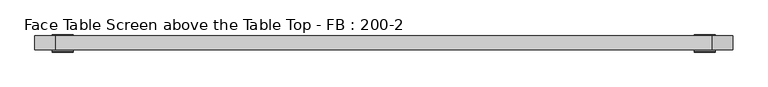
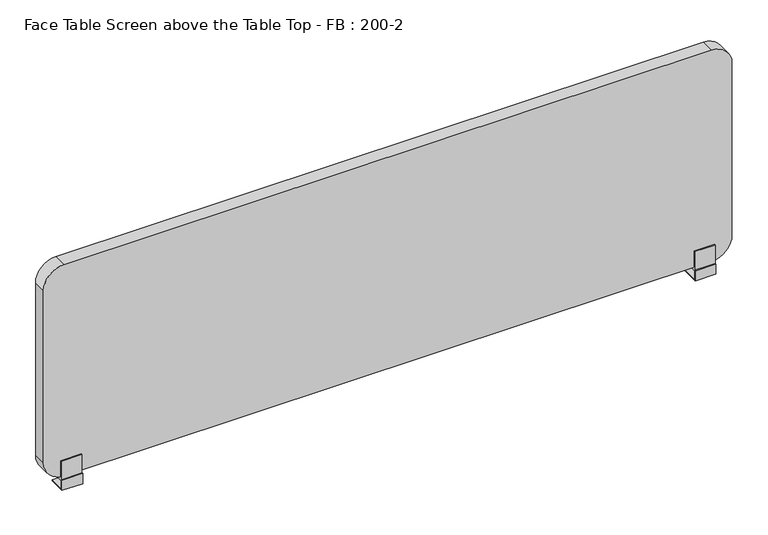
"""IFC4 building model written with IfcOpenShell, lengths in millimetres: furniture geometry, Face Table Screen above the Table Top - FB : 200-2."""

from ifc_helpers import new_model, si_unit, point, frame, frame_2d, origin, place, context, project, spatial, polyline, circle_curve, trimmed, segment, composite_curve, outline, extrude, source, transform, mapped, element, save
from ifc_brep_helpers import plane_surface, cylinder_surface, advanced_brep


def face_table_screen_above_the_table_top_fb_200_2_9797aef2(model_context):
    return source(origin(), model_context, "Body", "SolidModel", [
        advanced_brep(
        [(-925.0, 20.0, -39.4406633), (-915.0, 20.0, -39.4406633), (-915.0, 20.0, -28.0), (-925.0, 20.0, -28.0), (-950.0, 43.0, -25.0), (-950.0, -3.0, -25.0), (-890.0, -3.0, -25.0), (-890.0, 43.0, -25.0), (-950.0, -3.0, 0.0), (-950.0, 43.0, -28.0), (-950.0, -6.0, -28.0), (-950.0, -6.0, 3.0), (-950.0, -3.0, 3.0), (-950.0, -3.0, 60.0), (-950.0, 0.0, 60.0), (-950.0, 0.0, 10.0), (-950.0, 40.0, 10.0), (-950.0, 40.0, 60.0), (-950.0, 43.0, 60.0), (-950.0, 43.0, 0.0), (-890.0, -3.0, 0.0), (-890.0, 43.0, 0.0), (-890.0, 43.0, 60.0), (-890.0, 40.0, 60.0), (-890.0, 40.0, 10.0), (-890.0, 0.0, 10.0), (-890.0, 0.0, 60.0), (-890.0, -3.0, 60.0), (-890.0, -3.0, 3.0), (-890.0, -6.0, 3.0), (-890.0, -6.0, -28.0), (-890.0, 43.0, -28.0)],
        [
            (0, 1, circle_curve(frame((-920.0, 20.0, -39.4406633), z_axis=(0.0, 0.0, -1.0), x_axis=(1.0, 0.0, 0.0)), 5.0)),
            (1, 0, circle_curve(frame((-920.0, 20.0, -39.4406633), z_axis=(0.0, 0.0, -1.0), x_axis=(1.0, 0.0, 0.0)), 5.0)),
            (1, 2),
            (2, 3, circle_curve(frame((-920.0, 20.0, -28.0), z_axis=(0.0, 0.0, -1.0), x_axis=(1.0, 0.0, 0.0)), 5.0)),
            (3, 0),
            (3, 2, circle_curve(frame((-920.0, 20.0, -28.0), z_axis=(0.0, 0.0, -1.0), x_axis=(1.0, 0.0, 0.0)), 5.0)),
            (4, 5),
            (5, 6),
            (6, 7),
            (7, 4),
            (8, 5),
            (4, 9),
            (9, 10),
            (10, 11),
            (11, 12),
            (12, 13),
            (13, 14),
            (14, 15),
            (15, 16),
            (16, 17),
            (17, 18),
            (18, 19),
            (19, 8),
            (20, 21),
            (21, 22),
            (22, 23),
            (23, 24),
            (24, 25),
            (25, 26),
            (26, 27),
            (27, 28),
            (28, 29),
            (29, 30),
            (30, 31),
            (31, 7),
            (6, 20),
            (19, 21),
            (20, 8),
            (18, 22),
            (17, 23),
            (16, 24),
            (15, 25),
            (14, 26),
            (13, 27),
            (12, 28),
            (11, 29),
            (10, 30),
            (9, 31),
        ],
        [
            plane_surface(frame((-915.0, 20.0, -39.4406633), z_axis=(0.0, 0.0, -1.0), x_axis=(0.0, -1.0, 0.0))),
            cylinder_surface(frame((-920.0, 20.0, -39.4406633), z_axis=(0.0, 0.0, 1.0), x_axis=(1.0, 0.0, 0.0)), 5.0),
            plane_surface(frame((-915.0, 20.0, -25.0), z_axis=(0.0, 0.0, 1.0), x_axis=(0.0, 1.0, 0.0))),
            plane_surface(frame((-950.0, 43.0, 0.0), z_axis=(-1.0, 0.0, 0.0), x_axis=(0.0, -1.0, 0.0))),
            plane_surface(frame((-890.0, 43.0, 0.0), z_axis=(1.0, 0.0, 0.0), x_axis=(0.0, 1.0, 0.0))),
            plane_surface(frame((-890.0, -3.0, 0.0), z_axis=(0.0, 0.0, -1.0), x_axis=(-1.0, 0.0, 0.0))),
            plane_surface(frame((-890.0, 43.0, 0.0), z_axis=(0.0, 1.0, 0.0), x_axis=(-1.0, 0.0, 0.0))),
            plane_surface(frame((-890.0, 43.0, 60.0), z_axis=(0.0, 0.0, 1.0), x_axis=(-1.0, 0.0, 0.0))),
            plane_surface(frame((-890.0, 40.0, 60.0), z_axis=(0.0, -1.0, 0.0), x_axis=(-1.0, 0.0, 0.0))),
            plane_surface(frame((-890.0, 40.0, 10.0), z_axis=(0.0, 0.0, 1.0), x_axis=(-1.0, 0.0, 0.0))),
            plane_surface(frame((-890.0, 0.0, 10.0), z_axis=(0.0, 1.0, 0.0), x_axis=(-1.0, 0.0, 0.0))),
            plane_surface(frame((-890.0, 0.0, 60.0), z_axis=(0.0, 0.0, 1.0), x_axis=(-1.0, 0.0, 0.0))),
            plane_surface(frame((-890.0, -3.0, 60.0), z_axis=(0.0, -1.0, 0.0), x_axis=(-1.0, 0.0, 0.0))),
            plane_surface(frame((-890.0, -3.0, 3.0), z_axis=(0.0, 0.0, 1.0), x_axis=(-1.0, 0.0, 0.0))),
            plane_surface(frame((-890.0, -6.0, 3.0), z_axis=(0.0, -1.0, 0.0), x_axis=(-1.0, 0.0, 0.0))),
            plane_surface(frame((-890.0, -6.0, -28.0), z_axis=(0.0, 0.0, -1.0), x_axis=(-1.0, 0.0, 0.0))),
            plane_surface(frame((-890.0, 43.0, -28.0), z_axis=(0.0, 1.0, 0.0), x_axis=(-1.0, 0.0, 0.0))),
            plane_surface(frame((-890.0, -3.0, -25.0), z_axis=(0.0, 1.0, 0.0), x_axis=(-1.0, 0.0, 0.0))),
        ],
        [
            (0, [[1, 2]]),
            (1, [[-2, 3, 4, 5]]),
            (1, [[-1, -5, 6, -3]]),
            (2, [[7, 8, 9, 10]]),
            (3, [[11, -7, 12, 13, 14, 15, 16, 17, 18, 19, 20, 21, 22, 23]]),
            (4, [[24, 25, 26, 27, 28, 29, 30, 31, 32, 33, 34, 35, -9, 36]]),
            (5, [[-23, 37, -24, 38]]),
            (6, [[-22, 39, -25, -37]]),
            (7, [[-21, 40, -26, -39]]),
            (8, [[-20, 41, -27, -40]]),
            (9, [[-19, 42, -28, -41]]),
            (10, [[-18, 43, -29, -42]]),
            (11, [[-17, 44, -30, -43]]),
            (12, [[-16, 45, -31, -44]]),
            (13, [[-15, 46, -32, -45]]),
            (14, [[-14, 47, -33, -46]]),
            (15, [[-13, 48, -34, -47], [-4, -6]]),
            (16, [[-12, -10, -35, -48]]),
            (17, [[-11, -38, -36, -8]]),
        ],
    ),
        advanced_brep(
        [(915.0, 20.0, -39.4406633), (925.0, 20.0, -39.4406633), (925.0, 20.0, -28.0), (915.0, 20.0, -28.0), (890.0, 43.0, -25.0), (890.0, -3.0, -25.0), (950.0, -3.0, -25.0), (950.0, 43.0, -25.0), (890.0, -3.0, 0.0), (890.0, 43.0, -28.0), (890.0, -6.0, -28.0), (890.0, -6.0, 3.0), (890.0, -3.0, 3.0), (890.0, -3.0, 60.0), (890.0, 0.0, 60.0), (890.0, 0.0, 10.0), (890.0, 40.0, 10.0), (890.0, 40.0, 60.0), (890.0, 43.0, 60.0), (890.0, 43.0, 0.0), (950.0, -3.0, 0.0), (950.0, 43.0, 0.0), (950.0, 43.0, 60.0), (950.0, 40.0, 60.0), (950.0, 40.0, 10.0), (950.0, 0.0, 10.0), (950.0, 0.0, 60.0), (950.0, -3.0, 60.0), (950.0, -3.0, 3.0), (950.0, -6.0, 3.0), (950.0, -6.0, -28.0), (950.0, 43.0, -28.0)],
        [
            (0, 1, circle_curve(frame((920.0, 20.0, -39.4406633), z_axis=(0.0, 0.0, -1.0), x_axis=(1.0, 0.0, 0.0)), 5.0)),
            (1, 0, circle_curve(frame((920.0, 20.0, -39.4406633), z_axis=(0.0, 0.0, -1.0), x_axis=(1.0, 0.0, 0.0)), 5.0)),
            (1, 2),
            (2, 3, circle_curve(frame((920.0, 20.0, -28.0), z_axis=(0.0, 0.0, -1.0), x_axis=(1.0, 0.0, 0.0)), 5.0)),
            (3, 0),
            (3, 2, circle_curve(frame((920.0, 20.0, -28.0), z_axis=(0.0, 0.0, -1.0), x_axis=(1.0, 0.0, 0.0)), 5.0)),
            (4, 5),
            (5, 6),
            (6, 7),
            (7, 4),
            (8, 5),
            (4, 9),
            (9, 10),
            (10, 11),
            (11, 12),
            (12, 13),
            (13, 14),
            (14, 15),
            (15, 16),
            (16, 17),
            (17, 18),
            (18, 19),
            (19, 8),
            (20, 21),
            (21, 22),
            (22, 23),
            (23, 24),
            (24, 25),
            (25, 26),
            (26, 27),
            (27, 28),
            (28, 29),
            (29, 30),
            (30, 31),
            (31, 7),
            (6, 20),
            (19, 21),
            (20, 8),
            (18, 22),
            (17, 23),
            (16, 24),
            (15, 25),
            (14, 26),
            (13, 27),
            (12, 28),
            (11, 29),
            (10, 30),
            (9, 31),
        ],
        [
            plane_surface(frame((925.0, 20.0, -39.4406633), z_axis=(0.0, 0.0, -1.0), x_axis=(0.0, -1.0, 0.0))),
            cylinder_surface(frame((920.0, 20.0, -39.4406633), z_axis=(0.0, 0.0, 1.0), x_axis=(1.0, 0.0, 0.0)), 5.0),
            plane_surface(frame((925.0, 20.0, -25.0), z_axis=(0.0, 0.0, 1.0), x_axis=(0.0, 1.0, 0.0))),
            plane_surface(frame((890.0, 43.0, 0.0), z_axis=(-1.0, 0.0, 0.0), x_axis=(0.0, -1.0, 0.0))),
            plane_surface(frame((950.0, 43.0, 0.0), z_axis=(1.0, 0.0, 0.0), x_axis=(0.0, 1.0, 0.0))),
            plane_surface(frame((950.0, -3.0, 0.0), z_axis=(0.0, 0.0, -1.0), x_axis=(-1.0, 0.0, 0.0))),
            plane_surface(frame((950.0, 43.0, 0.0), z_axis=(0.0, 1.0, 0.0), x_axis=(-1.0, 0.0, 0.0))),
            plane_surface(frame((950.0, 43.0, 60.0), z_axis=(0.0, 0.0, 1.0), x_axis=(-1.0, 0.0, 0.0))),
            plane_surface(frame((950.0, 40.0, 60.0), z_axis=(0.0, -1.0, 0.0), x_axis=(-1.0, 0.0, 0.0))),
            plane_surface(frame((950.0, 40.0, 10.0), z_axis=(0.0, 0.0, 1.0), x_axis=(-1.0, 0.0, 0.0))),
            plane_surface(frame((950.0, 0.0, 10.0), z_axis=(0.0, 1.0, 0.0), x_axis=(-1.0, 0.0, 0.0))),
            plane_surface(frame((950.0, 0.0, 60.0), z_axis=(0.0, 0.0, 1.0), x_axis=(-1.0, 0.0, 0.0))),
            plane_surface(frame((950.0, -3.0, 60.0), z_axis=(0.0, -1.0, 0.0), x_axis=(-1.0, 0.0, 0.0))),
            plane_surface(frame((950.0, -3.0, 3.0), z_axis=(0.0, 0.0, 1.0), x_axis=(-1.0, 0.0, 0.0))),
            plane_surface(frame((950.0, -6.0, 3.0), z_axis=(0.0, -1.0, 0.0), x_axis=(-1.0, 0.0, 0.0))),
            plane_surface(frame((950.0, -6.0, -28.0), z_axis=(0.0, 0.0, -1.0), x_axis=(-1.0, 0.0, 0.0))),
            plane_surface(frame((950.0, 43.0, -28.0), z_axis=(0.0, 1.0, 0.0), x_axis=(-1.0, 0.0, 0.0))),
            plane_surface(frame((950.0, -3.0, -25.0), z_axis=(0.0, 1.0, 0.0), x_axis=(-1.0, 0.0, 0.0))),
        ],
        [
            (0, [[1, 2]]),
            (1, [[-2, 3, 4, 5]]),
            (1, [[-1, -5, 6, -3]]),
            (2, [[7, 8, 9, 10]]),
            (3, [[11, -7, 12, 13, 14, 15, 16, 17, 18, 19, 20, 21, 22, 23]]),
            (4, [[24, 25, 26, 27, 28, 29, 30, 31, 32, 33, 34, 35, -9, 36]]),
            (5, [[-23, 37, -24, 38]]),
            (6, [[-22, 39, -25, -37]]),
            (7, [[-21, 40, -26, -39]]),
            (8, [[-20, 41, -27, -40]]),
            (9, [[-19, 42, -28, -41]]),
            (10, [[-18, 43, -29, -42]]),
            (11, [[-17, 44, -30, -43]]),
            (12, [[-16, 45, -31, -44]]),
            (13, [[-15, 46, -32, -45]]),
            (14, [[-14, 47, -33, -46]]),
            (15, [[-13, 48, -34, -47], [-4, -6]]),
            (16, [[-12, -10, -35, -48]]),
            (17, [[-11, -38, -36, -8]]),
        ],
    ),
        extrude(outline(composite_curve([segment(polyline([(660.0, 940.0), (660.0, -940.0)]), True, "CONTINUOUS"), segment(trimmed(circle_curve(frame_2d((600.0, -940.0)), 60.0), [point((660.0, -940.0))], [point((600.0, -1000.0))], False, "CARTESIAN"), True, "CONTINUOUS"), segment(polyline([(600.0, -1000.0), (70.0, -1000.0)]), True, "CONTINUOUS"), segment(trimmed(circle_curve(frame_2d((70.0, -940.0)), 60.0), [point((70.0, -1000.0))], [point((10.0, -940.0))], False, "CARTESIAN"), True, "CONTINUOUS"), segment(polyline([(10.0, -940.0), (10.0, 940.0)]), True, "CONTINUOUS"), segment(trimmed(circle_curve(frame_2d((70.0, 940.0)), 60.0), [point((10.0, 940.0))], [point((70.0, 1000.0))], False, "CARTESIAN"), True, "CONTINUOUS"), segment(polyline([(70.0, 1000.0), (600.0, 1000.0)]), True, "CONTINUOUS"), segment(trimmed(circle_curve(frame_2d((600.0, 940.0)), 60.0), [point((600.0, 1000.0))], [point((660.0, 940.0))], False, "CARTESIAN"), True, "CONTINUOUS")], self_intersect=False)), frame((0.0, 0.0, 0.0), z_axis=(0.0, 1.0, 0.0), x_axis=(0.0, 0.0, 1.0)), (0.0, 0.0, 1.0), 40.0),
    ])


if __name__ == "__main__":
    model = new_model("IFC4")
    model_context = context("Model", 3, world=origin())
    ifc_project = project(units=[si_unit("LENGTHUNIT", "METRE", prefix="MILLI")], contexts=[model_context])
    site = spatial("IfcSite", under=ifc_project)
    building = spatial("IfcBuilding", under=site)
    placement = place(None, origin())
    face_table_screen_above_the_table_top_fb_200_2_shape = face_table_screen_above_the_table_top_fb_200_2_9797aef2(model_context)
    element("IfcFurniture", 1, ObjectType="Face Table Screen above the Table Top - FB : 200-2", at=placement, inside=building, context=model_context, shape_type="MappedRepresentation", body=[
        mapped(face_table_screen_above_the_table_top_fb_200_2_shape, transform((0.0, 0.0, 0.0), x_axis=(1.0, 0.0, 0.0), y_axis=(0.0, 1.0, 0.0), z_axis=(0.0, 0.0, 1.0))),
    ])
    save(model, "model.ifc")
